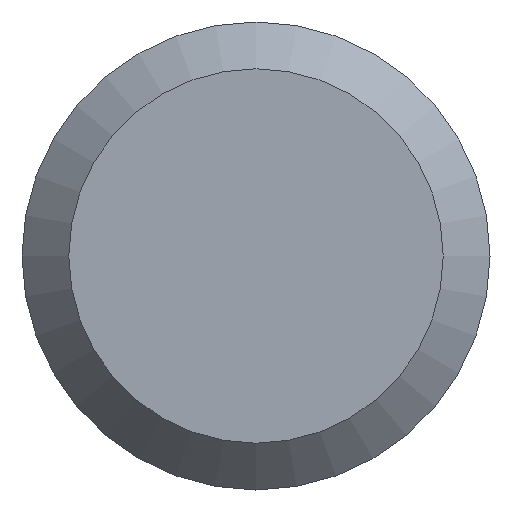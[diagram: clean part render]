
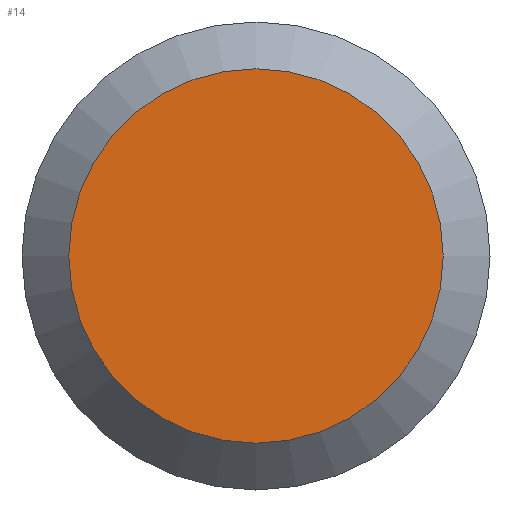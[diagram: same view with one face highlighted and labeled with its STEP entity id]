
A CAD part, left-side view. The second image highlights one B-rep face of the part: STEP entity #14.
In plain terms, the highlighted planar face has unit normal (-1, 0, 0).
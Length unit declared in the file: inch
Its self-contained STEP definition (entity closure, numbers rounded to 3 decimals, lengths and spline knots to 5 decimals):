
#4 = AXIS2_PLACEMENT_3D ( 'NONE', #122, #123, #50 ) ;
#6 = PLANE ( 'NONE',  #90 ) ;
#14 = ADVANCED_FACE ( 'NONE', ( #70 ), #6, .F. ) ;
#37 = EDGE_LOOP ( 'NONE', ( #141 ) ) ;
#50 = DIRECTION ( 'NONE',  ( 0., 0., -1. ) ) ;
#65 = VERTEX_POINT ( 'NONE', #177 ) ;
#70 = FACE_OUTER_BOUND ( 'NONE', #37, .T. ) ;
#73 = DIRECTION ( 'NONE',  ( 1., 0., 0. ) ) ;
#83 = DIRECTION ( 'NONE',  ( 0., 0., -1. ) ) ;
#85 = CARTESIAN_POINT ( 'NONE',  ( 0., 0.06425, 0. ) ) ;
#90 = AXIS2_PLACEMENT_3D ( 'NONE', #85, #73, #83 ) ;
#113 = EDGE_CURVE ( 'NONE', #65, #65, #125, .T. ) ;
#122 = CARTESIAN_POINT ( 'NONE',  ( 0., 0., 0. ) ) ;
#123 = DIRECTION ( 'NONE',  ( -1., 0., 0. ) ) ;
#125 = CIRCLE ( 'NONE', #4, 0.0514 ) ;
#141 = ORIENTED_EDGE ( 'NONE', *, *, #113, .T. ) ;
#177 = CARTESIAN_POINT ( 'NONE',  ( 0., 0., -0.0514 ) ) ;
